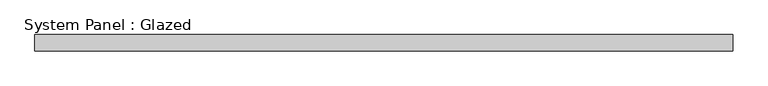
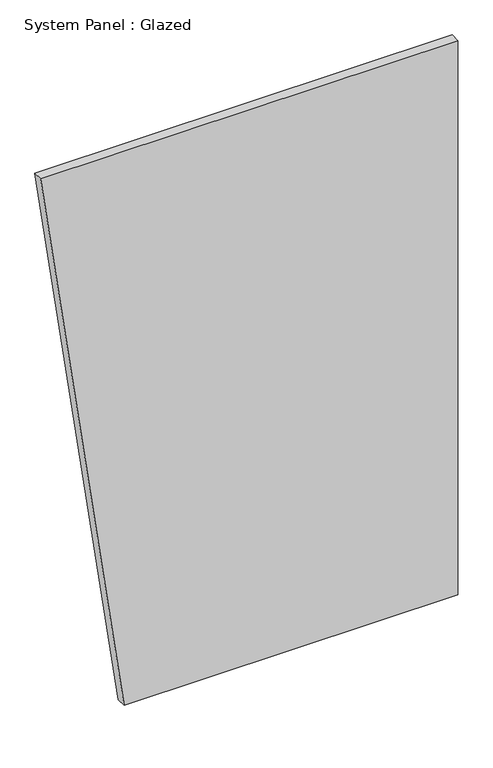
"""IFC4 building model written with IfcOpenShell, lengths in millimetres: plate geometry, System Panel : Glazed."""

from ifc_helpers import new_model, si_unit, frame, origin, place, context, project, spatial, polyline, outline, extrude, source, transform, mapped, element, save


def system_panel_glazed_f2a6c490(model_context):
    return source(origin(), model_context, "Body", "SweptSolid", [
        extrude(outline(polyline([(0.0, -325.5680328), (0.0, 542.6133879), (1524.0, 542.6133879), (1524.0, -542.6133879), (0.0, -325.5680328)])), frame((0.0, 19.05, 0.0), z_axis=(0.0, 1.0, 0.0), x_axis=(0.0, 0.0, 1.0)), (0.0, 0.0, 1.0), 25.4),
    ])


if __name__ == "__main__":
    model = new_model("IFC4")
    model_context = context("Model", 3, world=origin())
    ifc_project = project(units=[si_unit("LENGTHUNIT", "METRE", prefix="MILLI")], contexts=[model_context])
    site = spatial("IfcSite", under=ifc_project)
    building = spatial("IfcBuilding", under=site)
    placement = place(None, origin())
    system_panel_glazed_shape = system_panel_glazed_f2a6c490(model_context)
    element("IfcPlate", 1, ObjectType="System Panel : Glazed", at=placement, inside=building, context=model_context, shape_type="MappedRepresentation", body=[
        mapped(system_panel_glazed_shape, transform((0.0, 0.0, 0.0), x_axis=(1.0, 0.0, 0.0), y_axis=(0.0, 1.0, 0.0), z_axis=(0.0, 0.0, 1.0))),
    ])
    save(model, "model.ifc")
